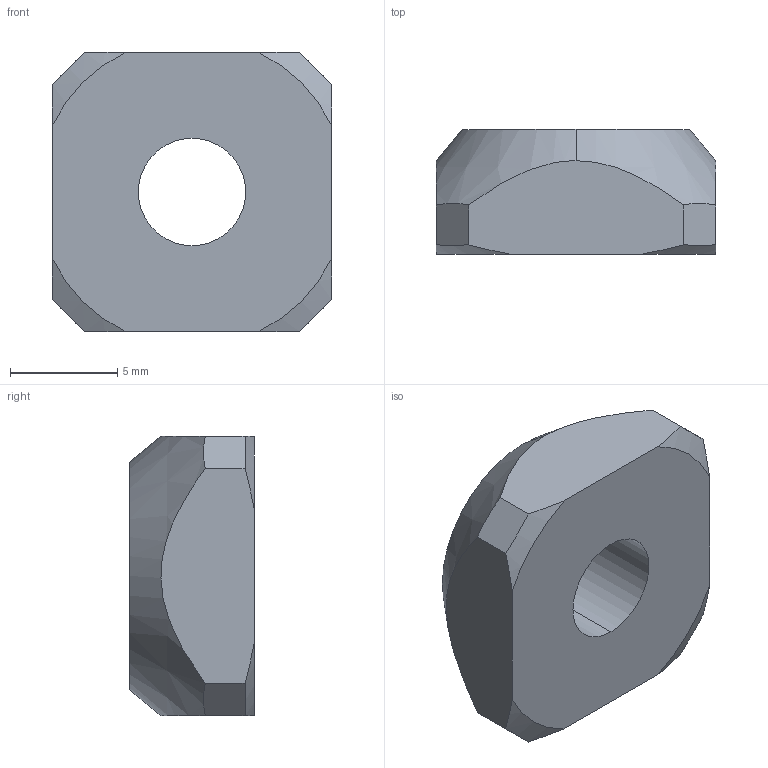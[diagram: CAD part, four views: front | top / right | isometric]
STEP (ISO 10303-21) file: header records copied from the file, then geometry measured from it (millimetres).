
FILE_DESCRIPTION (( 'STEP AP214' ), '1' );
FILE_NAME ('1.2008 Neliömutteri M6.STEP', '2025-09-05T10:13:11', ( '' ), ( '' ), 'SwSTEP 2.0', 'SolidWorks 2025', '' );
FILE_SCHEMA (( 'AUTOMOTIVE_DESIGN' ));
Length unit declared in the file: millimetre
Products named in the file (1): 1.2008 Neliömutteri M6
Bounding box: 13 x 5.8 x 13 mm (x, y, z)
Volume: 730.9 mm3; surface area: 579.5 mm2
Topology: 1 solids, 1 shells, 20 faces, 52 edges, 34 vertices
Faces by surface type: plane 10, cone 8, cylinder 2
Entity records: 743 total; most frequent: CARTESIAN_POINT 233, ORIENTED_EDGE 104, DIRECTION 84, EDGE_CURVE 52, VERTEX_POINT 34, AXIS2_PLACEMENT_3D 33, B_SPLINE_CURVE_WITH_KNOTS 22, EDGE_LOOP 22
